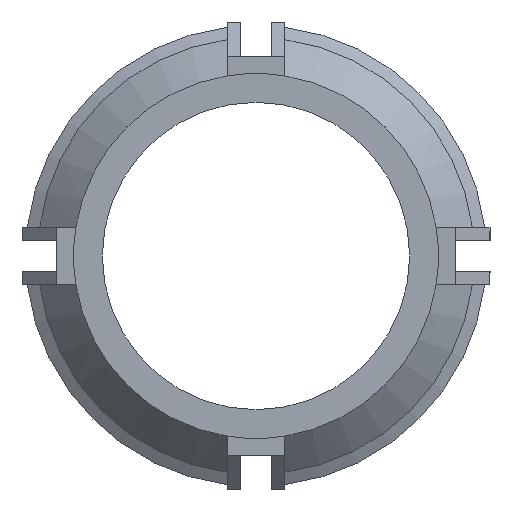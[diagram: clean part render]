
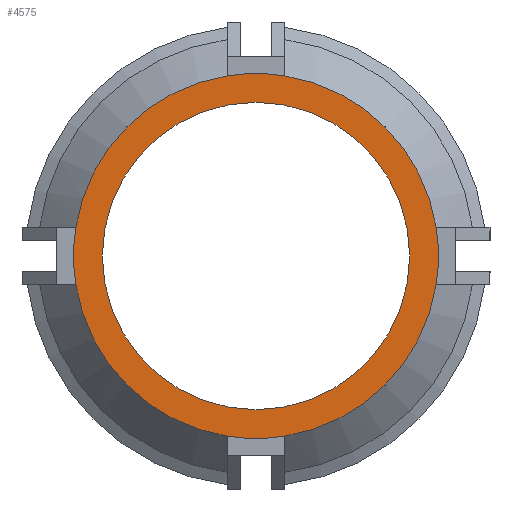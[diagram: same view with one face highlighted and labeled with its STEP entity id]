
A CAD part, front view. The second image highlights one B-rep face of the part: STEP entity #4575.
In plain terms, the highlighted planar face has unit normal (0, -1, 0).
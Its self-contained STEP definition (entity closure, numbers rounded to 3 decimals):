
#9 = VERTEX_POINT ( 'NONE', #876 ) ;
#20 = CARTESIAN_POINT ( 'NONE',  ( -0.75, -12., -4.69 ) ) ;
#156 = AXIS2_PLACEMENT_3D ( 'NONE', #2002, #3468, #846 ) ;
#165 = DIRECTION ( 'NONE',  ( 0., -1., 0. ) ) ;
#195 = DIRECTION ( 'NONE',  ( 0., -1., 0. ) ) ;
#200 = VERTEX_POINT ( 'NONE', #2706 ) ;
#227 = CARTESIAN_POINT ( 'NONE',  ( 0., -12., 0. ) ) ;
#247 = CARTESIAN_POINT ( 'NONE',  ( 0.75, -12., -4.69 ) ) ;
#256 = CARTESIAN_POINT ( 'NONE',  ( 0., -12., 0. ) ) ;
#295 = DIRECTION ( 'NONE',  ( 0., 1., 0. ) ) ;
#354 = EDGE_LOOP ( 'NONE', ( #3212, #4124, #401, #2063, #1805, #2860, #4890, #2618 ) ) ;
#399 = CARTESIAN_POINT ( 'NONE',  ( 0., -12., 0. ) ) ;
#401 = ORIENTED_EDGE ( 'NONE', *, *, #1598, .T. ) ;
#422 = CIRCLE ( 'NONE', #3897, 4. ) ;
#426 = CARTESIAN_POINT ( 'NONE',  ( 0., -12., 0. ) ) ;
#471 = AXIS2_PLACEMENT_3D ( 'NONE', #399, #3352, #4629 ) ;
#527 = DIRECTION ( 'NONE',  ( 0., -1., 0. ) ) ;
#645 = AXIS2_PLACEMENT_3D ( 'NONE', #426, #3893, #3864 ) ;
#662 = FACE_OUTER_BOUND ( 'NONE', #354, .T. ) ;
#714 = PLANE ( 'NONE',  #4455 ) ;
#846 = DIRECTION ( 'NONE',  ( 0., 0., 1. ) ) ;
#869 = DIRECTION ( 'NONE',  ( 0., -1., 0. ) ) ;
#876 = CARTESIAN_POINT ( 'NONE',  ( 0.75, -12., 4.69 ) ) ;
#891 = VERTEX_POINT ( 'NONE', #4970 ) ;
#924 = DIRECTION ( 'NONE',  ( -1., 0., 0. ) ) ;
#950 = DIRECTION ( 'NONE',  ( 0., -1., 0. ) ) ;
#995 = CARTESIAN_POINT ( 'NONE',  ( 4.69, -12., -0.75 ) ) ;
#998 = EDGE_CURVE ( 'NONE', #4931, #1034, #4021, .T. ) ;
#1034 = VERTEX_POINT ( 'NONE', #2280 ) ;
#1218 = VERTEX_POINT ( 'NONE', #2426 ) ;
#1304 = DIRECTION ( 'NONE',  ( 0., 0., 1. ) ) ;
#1354 = DIRECTION ( 'NONE',  ( 0., 0., 1. ) ) ;
#1437 = ORIENTED_EDGE ( 'NONE', *, *, #1879, .F. ) ;
#1524 = DIRECTION ( 'NONE',  ( 0., 0., 1. ) ) ;
#1557 = CIRCLE ( 'NONE', #2186, 4.75 ) ;
#1598 = EDGE_CURVE ( 'NONE', #3114, #4427, #2095, .T. ) ;
#1628 = VERTEX_POINT ( 'NONE', #1773 ) ;
#1761 = CIRCLE ( 'NONE', #2418, 4. ) ;
#1773 = CARTESIAN_POINT ( 'NONE',  ( 0., -12., -4. ) ) ;
#1805 = ORIENTED_EDGE ( 'NONE', *, *, #998, .T. ) ;
#1856 = CIRCLE ( 'NONE', #4682, 4.75 ) ;
#1871 = EDGE_CURVE ( 'NONE', #4928, #3114, #3953, .T. ) ;
#1879 = EDGE_CURVE ( 'NONE', #1628, #891, #1761, .T. ) ;
#1999 = DIRECTION ( 'NONE',  ( 0., -1., 0. ) ) ;
#2002 = CARTESIAN_POINT ( 'NONE',  ( 0., -12., 0. ) ) ;
#2047 = CARTESIAN_POINT ( 'NONE',  ( 0., -12., 0. ) ) ;
#2063 = ORIENTED_EDGE ( 'NONE', *, *, #2675, .T. ) ;
#2095 = CIRCLE ( 'NONE', #2258, 4.75 ) ;
#2096 = CARTESIAN_POINT ( 'NONE',  ( 0., -12., 0. ) ) ;
#2186 = AXIS2_PLACEMENT_3D ( 'NONE', #256, #950, #3267 ) ;
#2258 = AXIS2_PLACEMENT_3D ( 'NONE', #3649, #2911, #924 ) ;
#2280 = CARTESIAN_POINT ( 'NONE',  ( 4.69, -12., 0.75 ) ) ;
#2383 = DIRECTION ( 'NONE',  ( 0., 0., 1. ) ) ;
#2418 = AXIS2_PLACEMENT_3D ( 'NONE', #3543, #869, #1524 ) ;
#2423 = EDGE_CURVE ( 'NONE', #1218, #4928, #1856, .T. ) ;
#2426 = CARTESIAN_POINT ( 'NONE',  ( -4.69, -12., 0.75 ) ) ;
#2431 = EDGE_CURVE ( 'NONE', #200, #1218, #2498, .T. ) ;
#2498 = CIRCLE ( 'NONE', #3148, 4.75 ) ;
#2618 = ORIENTED_EDGE ( 'NONE', *, *, #2431, .T. ) ;
#2675 = EDGE_CURVE ( 'NONE', #4427, #4931, #4037, .T. ) ;
#2706 = CARTESIAN_POINT ( 'NONE',  ( -0.75, -12., 4.69 ) ) ;
#2860 = ORIENTED_EDGE ( 'NONE', *, *, #4767, .T. ) ;
#2911 = DIRECTION ( 'NONE',  ( 0., -1., 0. ) ) ;
#2986 = FACE_BOUND ( 'NONE', #3820, .T. ) ;
#3090 = CIRCLE ( 'NONE', #3650, 4.75 ) ;
#3114 = VERTEX_POINT ( 'NONE', #20 ) ;
#3148 = AXIS2_PLACEMENT_3D ( 'NONE', #2096, #195, #1354 ) ;
#3212 = ORIENTED_EDGE ( 'NONE', *, *, #2423, .T. ) ;
#3267 = DIRECTION ( 'NONE',  ( 1., 0., 0. ) ) ;
#3352 = DIRECTION ( 'NONE',  ( 0., -1., 0. ) ) ;
#3417 = DIRECTION ( 'NONE',  ( 0., 0., 1. ) ) ;
#3468 = DIRECTION ( 'NONE',  ( 0., -1., 0. ) ) ;
#3543 = CARTESIAN_POINT ( 'NONE',  ( 0., -12., 0. ) ) ;
#3649 = CARTESIAN_POINT ( 'NONE',  ( 0., -12., 0. ) ) ;
#3650 = AXIS2_PLACEMENT_3D ( 'NONE', #3924, #1999, #2383 ) ;
#3820 = EDGE_LOOP ( 'NONE', ( #3943, #1437 ) ) ;
#3864 = DIRECTION ( 'NONE',  ( 0., 0., 1. ) ) ;
#3893 = DIRECTION ( 'NONE',  ( 0., -1., 0. ) ) ;
#3897 = AXIS2_PLACEMENT_3D ( 'NONE', #227, #165, #1304 ) ;
#3924 = CARTESIAN_POINT ( 'NONE',  ( 0., -12., 0. ) ) ;
#3943 = ORIENTED_EDGE ( 'NONE', *, *, #4940, .F. ) ;
#3953 = CIRCLE ( 'NONE', #156, 4.75 ) ;
#4021 = CIRCLE ( 'NONE', #471, 4.75 ) ;
#4030 = EDGE_CURVE ( 'NONE', #9, #200, #1557, .T. ) ;
#4037 = CIRCLE ( 'NONE', #645, 4.75 ) ;
#4124 = ORIENTED_EDGE ( 'NONE', *, *, #1871, .T. ) ;
#4347 = DIRECTION ( 'NONE',  ( 0., 0., 1. ) ) ;
#4427 = VERTEX_POINT ( 'NONE', #247 ) ;
#4455 = AXIS2_PLACEMENT_3D ( 'NONE', #4578, #295, #3417 ) ;
#4459 = CARTESIAN_POINT ( 'NONE',  ( -4.69, -12., -0.75 ) ) ;
#4575 = ADVANCED_FACE ( 'NONE', ( #2986, #662 ), #714, .F. ) ;
#4578 = CARTESIAN_POINT ( 'NONE',  ( 0., -12., 0. ) ) ;
#4629 = DIRECTION ( 'NONE',  ( 0., 0., -1. ) ) ;
#4682 = AXIS2_PLACEMENT_3D ( 'NONE', #2047, #527, #4347 ) ;
#4767 = EDGE_CURVE ( 'NONE', #1034, #9, #3090, .T. ) ;
#4890 = ORIENTED_EDGE ( 'NONE', *, *, #4030, .T. ) ;
#4928 = VERTEX_POINT ( 'NONE', #4459 ) ;
#4931 = VERTEX_POINT ( 'NONE', #995 ) ;
#4940 = EDGE_CURVE ( 'NONE', #891, #1628, #422, .T. ) ;
#4970 = CARTESIAN_POINT ( 'NONE',  ( 0., -12., 4. ) ) ;
